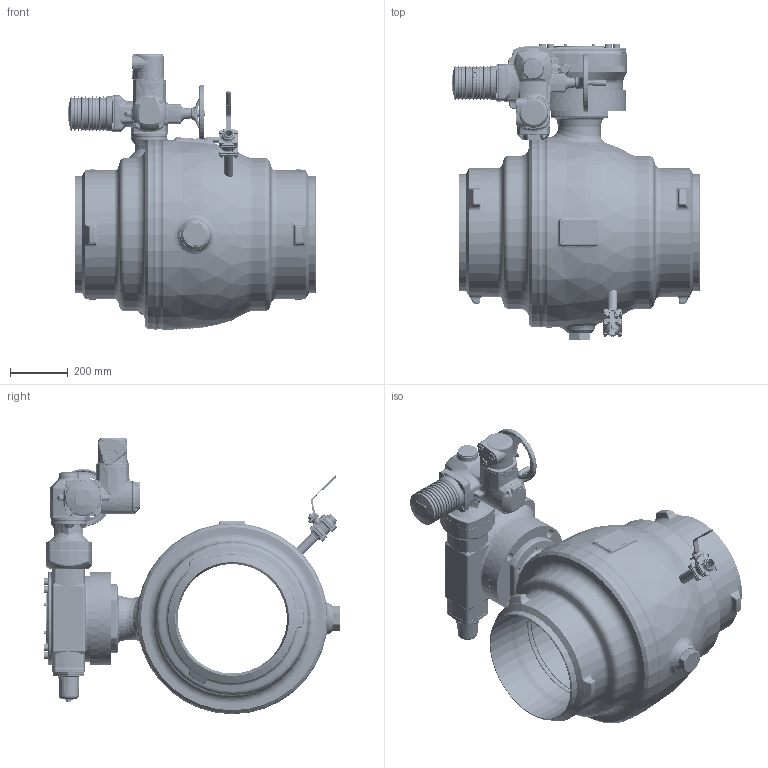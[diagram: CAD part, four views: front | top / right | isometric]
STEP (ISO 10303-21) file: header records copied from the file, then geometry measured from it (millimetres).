
FILE_DESCRIPTION((''),'2;1');
FILE_NAME('ASM0001_ASM','2026-01-28T10:59:51',('schwaba'),('KLINGER'),'CREO PARAMETRIC BY PTC INC, 2023014','CREO PARAMETRIC BY PTC INC, 2023014','');
FILE_SCHEMA(('CONFIG_CONTROL_DESIGN'));
Length unit declared in the file: millimetre
Products named in the file (4): KHSVI_400_FR_WE_ENTL; GS160_F25_F10_DN400; SA10_2_F10_STD; ASM0001_ASM
Assembly tree (3 placements, depth 2):
  ASM0001_ASM
    KHSVI_400_FR_WE_ENTL
    GS160_F25_F10_DN400
    SA10_2_F10_STD
Bounding box: 861.61 x 1030 x 959.78 mm (x, y, z)
Volume: 97225480.7 mm3; surface area: 7442305.8 mm2
Topology: 4 solids, 9 shells, 6173 faces, 14601 edges, 8578 vertices
Faces by surface type: plane 1489, cylinder 1454, bspline 1151, torus 1078, cone 836, sphere 94, extrusion 50, revolution 21
Entity records: 357984 total; most frequent: CARTESIAN_POINT 225647, ORIENTED_EDGE 28936, DIRECTION 25923, EDGE_CURVE 14468, AXIS2_PLACEMENT_3D 10963, VERTEX_POINT 8578, EDGE_LOOP 6526, FACE_OUTER_BOUND 6173
